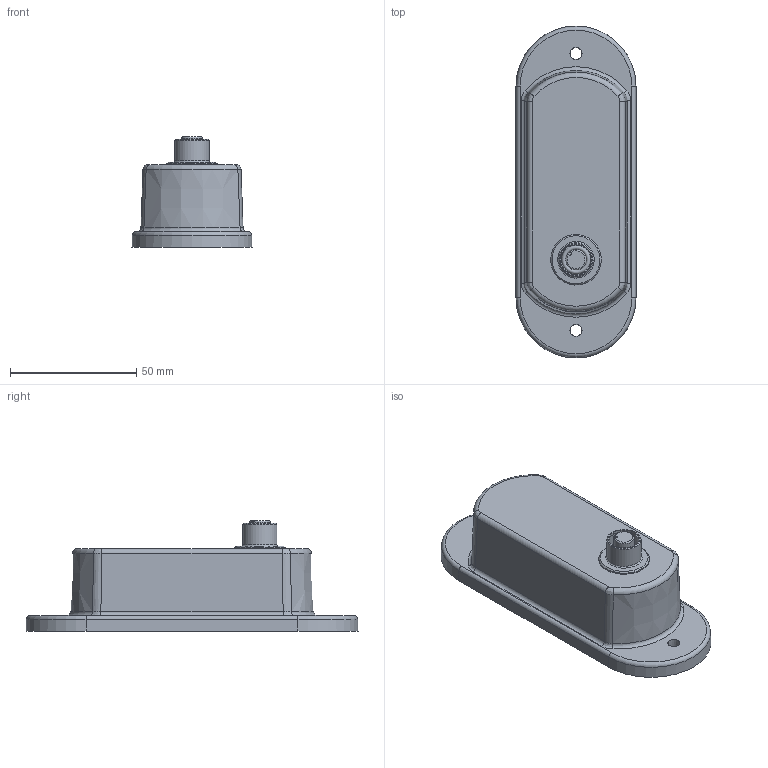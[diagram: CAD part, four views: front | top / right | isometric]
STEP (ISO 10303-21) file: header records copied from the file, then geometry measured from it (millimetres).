
FILE_DESCRIPTION(/* description */ ('PART (MM)'),/* implementation_level */ '2;1');
FILE_NAME(/* name */ 'L:\CAD Inventor\Workspace\Catalogs\TURCK BOXES\BCA-25_P-E123.stp',/* time_stamp */ '2021-11-30T08:55:54-06:00',/* author */ ('RSwans'),/* organization */ (''),/* preprocessor_version */ 'ST-DEVELOPER v16.5',/* originating_system */ 'Autodesk Inventor 2017',/* authorisation */ '');
FILE_SCHEMA (('AUTOMOTIVE_DESIGN { 1 0 10303 214 3 1 1 }'));
Length unit declared in the file: millimetre
Products named in the file (1): BCA-E1
Bounding box: 47.5 x 131.35 x 43.67 mm (x, y, z)
Volume: 58414.6 mm3; surface area: 34407.7 mm2
Topology: 1 solids, 12 shells, 494 faces, 1378 edges, 874 vertices
Faces by surface type: cylinder 224, plane 164, cone 38, torus 32, bspline 20, sphere 16
Full cylindrical faces by diameter (mm): 0.785 x5, 1.4 x5, 1.5 x5, 1.6 x5, 1.625 x5, 1.675 x10, 1.77 x5, 4.639 x2, 8 x1, 9 x1, 9.45 x1, 9.6 x1, 12 x1, 12.3 x1, 13.5 x1, 20 x1
Entity records: 16400 total; most frequent: CARTESIAN_POINT 3211, DIRECTION 2882, ORIENTED_EDGE 2488, AXIS2_PLACEMENT_3D 1252, EDGE_CURVE 1220, VERTEX_POINT 837, CIRCLE 744, EDGE_LOOP 675
